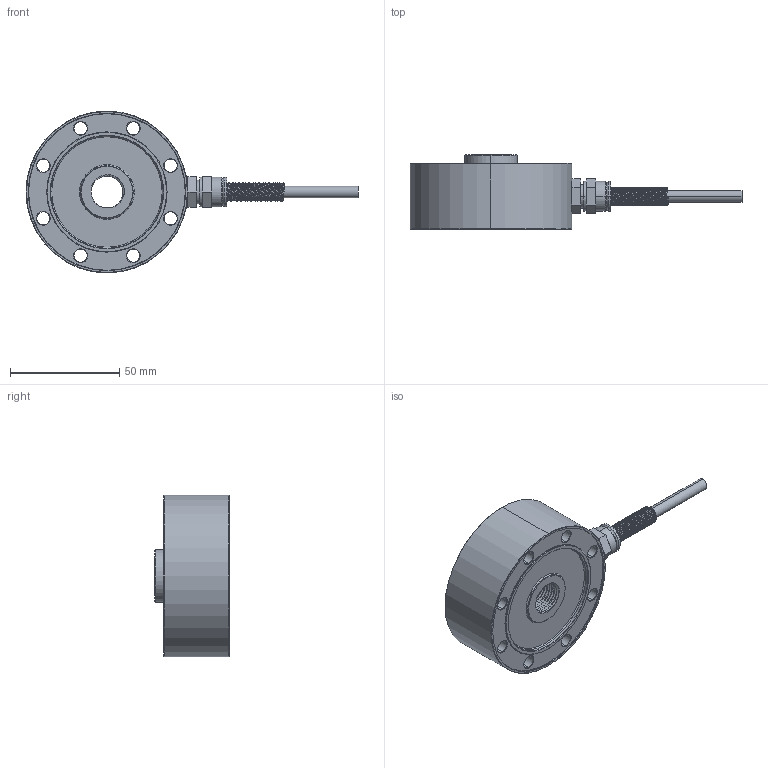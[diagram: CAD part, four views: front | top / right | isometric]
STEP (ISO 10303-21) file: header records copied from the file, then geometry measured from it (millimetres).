
FILE_DESCRIPTION (( 'STEP AP203' ), '1' );
FILE_NAME ('LCP03.STEP', '2024-07-16T05:00:37', ( '' ), ( '' ), 'SwSTEP 2.0', 'SolidWorks 2019', '' );
FILE_SCHEMA (( 'CONFIG_CONTROL_DESIGN' ));
Length unit declared in the file: millimetre
Products named in the file (1): LCP03
Bounding box: 151.8 x 34 x 74 mm (x, y, z)
Volume: 113618.6 mm3; surface area: 27425.7 mm2
Topology: 2 solids, 2 shells, 205 faces, 482 edges, 301 vertices
Faces by surface type: cylinder 100, cone 56, plane 38, bspline 7, torus 4
Entity records: 19589 total; most frequent: CARTESIAN_POINT 14943, ORIENTED_EDGE 964, DIRECTION 961, EDGE_CURVE 482, AXIS2_PLACEMENT_3D 384, VERTEX_POINT 301, EDGE_LOOP 243, ADVANCED_FACE 205
